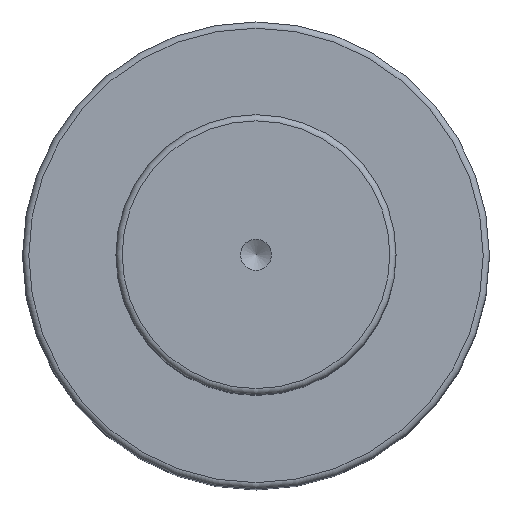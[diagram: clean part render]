
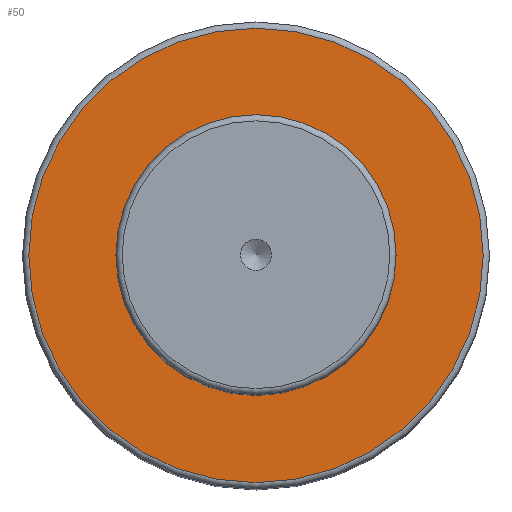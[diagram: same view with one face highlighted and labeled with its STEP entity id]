
A CAD part, top view. The second image highlights one B-rep face of the part: STEP entity #50.
In plain terms, the highlighted planar face has unit normal (0, 0, 1).
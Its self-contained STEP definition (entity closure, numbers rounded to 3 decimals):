
#40=PLANE('',#179);
#50=ADVANCED_FACE('',(#72,#73),#40,.F.);
#72=FACE_BOUND('',#96,.T.);
#73=FACE_BOUND('',#97,.T.);
#96=EDGE_LOOP('',(#118));
#97=EDGE_LOOP('',(#119));
#118=ORIENTED_EDGE('',*,*,#149,.F.);
#119=ORIENTED_EDGE('',*,*,#148,.T.);
#135=VERTEX_POINT('',#256);
#136=VERTEX_POINT('',#259);
#148=EDGE_CURVE('',#135,#135,#159,.T.);
#149=EDGE_CURVE('',#136,#136,#160,.T.);
#159=CIRCLE('',#176,22.5);
#160=CIRCLE('',#178,36.5);
#176=AXIS2_PLACEMENT_3D('',#255,#213,#214);
#178=AXIS2_PLACEMENT_3D('',#258,#217,#218);
#179=AXIS2_PLACEMENT_3D('',#260,#219,#220);
#213=DIRECTION('',(0.,0.,-1.));
#214=DIRECTION('',(-1.,0.,0.));
#217=DIRECTION('',(0.,0.,-1.));
#218=DIRECTION('',(-1.,0.,0.));
#219=DIRECTION('',(0.,0.,-1.));
#220=DIRECTION('',(-1.,0.,0.));
#255=CARTESIAN_POINT('',(0.,0.,102.));
#256=CARTESIAN_POINT('',(-22.5,0.,102.));
#258=CARTESIAN_POINT('',(0.,0.,102.));
#259=CARTESIAN_POINT('',(-36.5,0.,102.));
#260=CARTESIAN_POINT('',(22.5,0.,102.));
